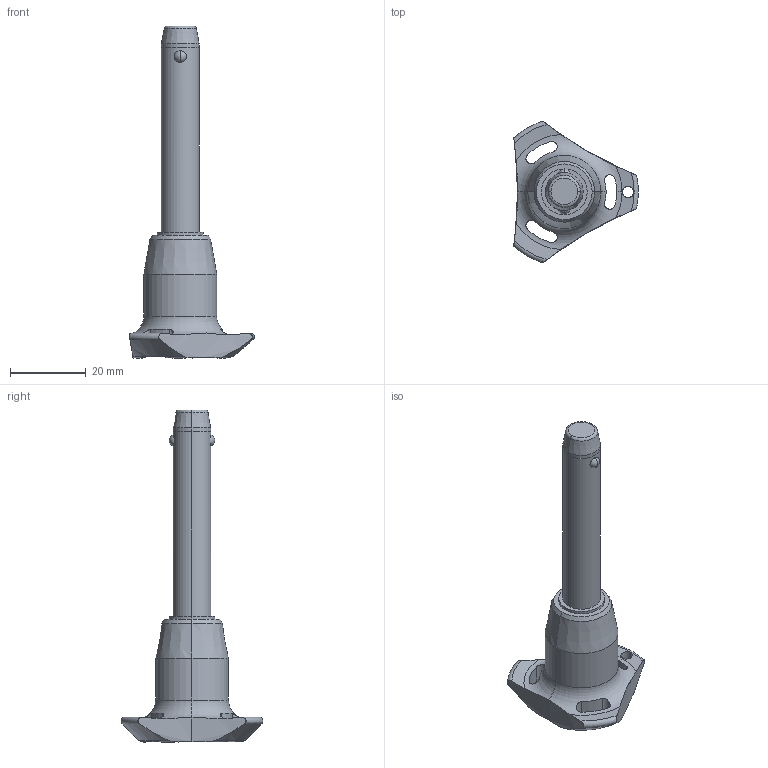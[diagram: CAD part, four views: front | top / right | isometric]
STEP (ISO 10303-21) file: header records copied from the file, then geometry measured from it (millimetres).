
FILE_DESCRIPTION (( 'STEP AP203' ), '1' );
FILE_NAME ('QR1716.M10-045-T.step', '2025-11-13T10:32:52', ( '' ), ( '' ), 'SwSTEP 2.0', 'SolidWorks 2019', '' );
FILE_SCHEMA (( 'CONFIG_CONTROL_DESIGN' ));
Length unit declared in the file: millimetre
Products named in the file (1): QR1716.M10-045-T
Bounding box: 33 x 37.51 x 87.9 mm (x, y, z)
Volume: 14613.9 mm3; surface area: 5578.4 mm2
Topology: 1 solids, 1 shells, 68 faces, 180 edges, 113 vertices
Faces by surface type: cylinder 32, cone 14, torus 11, sphere 6, plane 5
Entity records: 2838 total; most frequent: CARTESIAN_POINT 1098, ORIENTED_EDGE 360, DIRECTION 347, EDGE_CURVE 180, AXIS2_PLACEMENT_3D 154, VERTEX_POINT 113, CIRCLE 85, EDGE_LOOP 75
